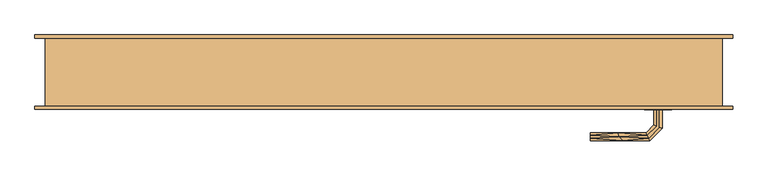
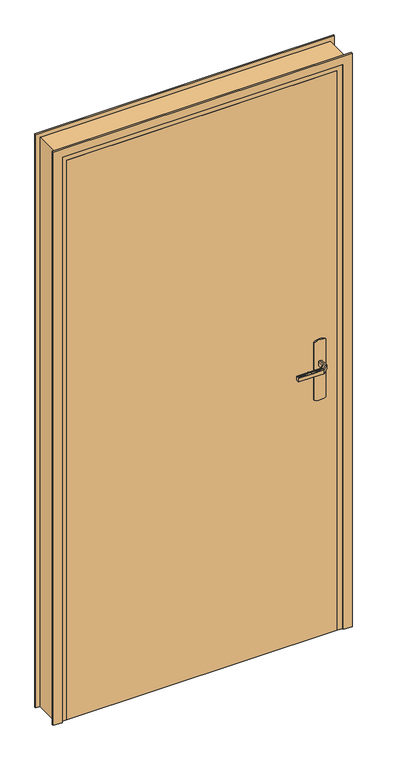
"""IFC4 building model written with IfcOpenShell, lengths in millimetres: door geometry, Portes - Int. Simple - PP (0.89m x 2.04m) (1)."""

from ifc_helpers import new_model, si_unit, point, frame, frame_2d, origin, origin_with_axes, place, context, project, spatial, polyline, circle_curve, trimmed, segment, composite_curve, outline, extrude, faceted_brep, source, transform, mapped, element, save


def door_922e83f1(model_context):
    return source(origin(), model_context, "Body", "SolidModel", [
        extrude(outline(composite_curve([segment(polyline([(1080.0, 955.0), (870.0, 955.0)]), True, "CONTINUOUS"), segment(trimmed(circle_curve(frame_2d((904.6410162, 975.0)), 40.0), [point((870.0, 955.0))], [point((870.0, 995.0))], False, "CARTESIAN"), True, "CONTINUOUS"), segment(polyline([(870.0, 995.0), (1080.0, 995.0)]), True, "CONTINUOUS"), segment(trimmed(circle_curve(frame_2d((1045.3589838, 975.0)), 40.0), [point((1080.0, 995.0))], [point((1080.0, 955.0))], False, "CARTESIAN"), True, "CONTINUOUS")], self_intersect=False)), frame((0.0, 40.0, 0.0), z_axis=(0.0, 1.0, 0.0), x_axis=(0.0, 0.0, 1.0)), (0.0, 0.0, 1.0), 5.0),
        extrude(outline(polyline([(1035.0, 40.0), (1035.0, 0.0), (105.0, 0.0), (105.0, 40.0), (1035.0, 40.0)])), origin_with_axes(), (0.0, 0.0, 1.0), 2040.0),
        extrude(outline(polyline([(0.0, 1055.0), (0.0, 1085.0), (2090.0, 1085.0), (2090.0, 55.0), (0.0, 55.0), (0.0, 85.0), (2060.0, 85.0), (2060.0, 1055.0), (0.0, 1055.0)])), frame((0.0, 100.0, 0.0), z_axis=(0.0, 1.0, 0.0), x_axis=(0.0, 0.0, 1.0)), (0.0, 0.0, 1.0), 5.0),
        extrude(outline(polyline([(0.0, 1055.0), (0.0, 1085.0), (2090.0, 1085.0), (2090.0, 55.0), (0.0, 55.0), (0.0, 85.0), (2060.0, 85.0), (2060.0, 1055.0), (0.0, 1055.0)])), frame((0.0, -5.0, 0.0), z_axis=(0.0, 1.0, 0.0), x_axis=(0.0, 0.0, 1.0)), (0.0, 0.0, 1.0), 5.0),
        faceted_brep([(969.0, -5.0, 1007.0), (972.9747013, -5.0, 1007.7804408), (977.0252987, -5.0, 1007.7804408), (981.0, -5.0, 1007.0), (981.0, -5.0, 993.0), (977.0252987, -5.0, 992.2195592), (972.9747013, -5.0, 992.2195592), (969.0, -5.0, 993.0), (981.0, -32.6509507, 1007.0), (977.0252987, -31.0045755, 1007.7804408), (972.9747013, -29.3267632, 1007.7804408), (959.2986025, -43.002862, 1007.7804408), (960.9764148, -47.0534593, 1007.7804408), (969.0, -27.680388, 1007.0), (969.0, -27.680388, 993.0), (972.9747013, -29.3267632, 992.2195592), (977.0252987, -31.0045755, 992.2195592), (960.9764148, -47.0534593, 992.2195592), (959.2986025, -43.002862, 992.2195592), (981.0, -32.6509507, 993.0), (962.62279, -51.0281607, 1007.0), (957.6522273, -39.0281607, 1007.0), (957.6522273, -39.0281607, 993.0), (962.62279, -51.0281607, 993.0), (874.9813594, -51.0281607, 993.0), (874.9813594, -51.0281607, 1007.0), (874.9813594, -47.0534593, 1007.7804408), (874.9813594, -43.002862, 1007.7804408), (874.9813594, -39.0281607, 1007.0), (874.9813594, -39.0281607, 993.0), (874.9813594, -43.002862, 992.2195592), (874.9813594, -47.0534593, 992.2195592), (922.6923028, -51.0281607, 1007.0), (917.1399809, -45.0281607, 1007.8786868), (916.3167933, -39.0281607, 1007.0), (916.3167933, -39.0281607, 993.0), (917.1399811, -45.0281608, 992.1213132), (922.6923104, -51.0281607, 993.0)], [[[0, 1, 2, 3, 4, 5, 6, 7]], [[8, 3, 2, 9]], [[9, 2, 1, 10, 11, 12]], [[10, 1, 0, 13]], [[7, 14, 13, 0]], [[7, 6, 15, 14]], [[15, 6, 5, 16, 17, 18]], [[5, 4, 19, 16]], [[3, 8, 19, 4]], [[20, 8, 9, 12]], [[11, 10, 13, 21]], [[14, 22, 21, 13]], [[22, 14, 15, 18]], [[17, 16, 19, 23]], [[8, 20, 23, 19]], [[24, 25, 26, 27, 28, 29, 30, 31]], [[32, 33, 26]], [[25, 32, 26]], [[12, 32, 20]], [[33, 11, 34]], [[21, 34, 11]], [[34, 28, 27]], [[26, 33, 27]], [[27, 33, 34]], [[12, 33, 32]], [[12, 11, 33]], [[34, 21, 22, 35, 29, 28]], [[35, 36, 30]], [[37, 31, 36]], [[22, 18, 35]], [[35, 30, 29]], [[24, 31, 37]], [[23, 37, 17]], [[37, 36, 17]], [[17, 36, 18]], [[18, 36, 35]], [[31, 30, 36]], [[37, 23, 20, 32, 25, 24]]]),
        faceted_brep([(969.0, 45.0, 993.0), (972.9747013, 45.0, 992.2195592), (977.0252987, 45.0, 992.2195592), (981.0, 45.0, 993.0), (981.0, 45.0, 1007.0), (977.0252987, 45.0, 1007.7804408), (972.9747013, 45.0, 1007.7804408), (969.0, 45.0, 1007.0), (969.0, 67.4852045, 1007.0), (969.0, 67.4852045, 993.0), (972.9747013, 69.1315797, 1007.7804408), (977.0252987, 70.8093921, 1007.7804408), (960.8389062, 86.9957845, 1007.7804408), (959.1610938, 82.9451872, 1007.7804408), (981.0, 72.4557673, 1007.0), (981.0, 72.4557673, 993.0), (977.0252987, 70.8093921, 992.2195592), (972.9747013, 69.1315797, 992.2195592), (959.1610938, 82.9451872, 992.2195592), (960.8389062, 86.9957845, 992.2195592), (957.5147186, 78.9704859, 1007.0), (957.5147186, 78.9704859, 993.0), (962.4852814, 90.9704859, 1007.0), (962.4852814, 90.9704859, 993.0), (874.9542163, 78.9704859, 1007.0), (874.9542163, 82.9451872, 1007.7804408), (874.9542163, 86.9957845, 1007.7804408), (874.9542163, 90.9704859, 1007.0), (874.9542163, 90.9704859, 993.0), (874.9542163, 86.9957845, 992.2195592), (874.9542163, 82.9451872, 992.2195592), (874.9542163, 78.9704859, 993.0), (916.2344794, 78.9704859, 993.0), (916.2344675, 78.9704859, 1007.0), (917.0576551, 84.9704859, 1007.8786868), (922.5547942, 90.9704859, 1007.0), (922.5547957, 90.9704859, 993.0), (917.0576549, 84.9704858, 992.1213132)], [[[0, 1, 2, 3, 4, 5, 6, 7]], [[7, 8, 9, 0]], [[7, 6, 10, 8]], [[10, 6, 5, 11, 12, 13]], [[5, 4, 14, 11]], [[15, 14, 4, 3]], [[15, 3, 2, 16]], [[16, 2, 1, 17, 18, 19]], [[17, 1, 0, 9]], [[8, 20, 21, 9]], [[20, 8, 10, 13]], [[11, 14, 22, 12]], [[15, 23, 22, 14]], [[23, 15, 16, 19]], [[18, 17, 9, 21]], [[24, 25, 26, 27, 28, 29, 30, 31]], [[32, 21, 20, 33, 24, 31]], [[33, 34, 25]], [[35, 26, 34]], [[20, 13, 33]], [[33, 25, 24]], [[27, 26, 35]], [[22, 35, 12]], [[35, 34, 12]], [[12, 34, 13]], [[13, 34, 33]], [[26, 25, 34]], [[35, 22, 23, 36, 28, 27]], [[36, 37, 29]], [[28, 36, 29]], [[19, 36, 23]], [[37, 18, 32]], [[21, 32, 18]], [[32, 31, 30]], [[29, 37, 30]], [[30, 37, 32]], [[19, 37, 36]], [[19, 18, 37]]]),
        faceted_brep([(1070.0, 100.0, 0.0), (1070.0, 0.0, 0.0), (1035.0, 0.0, 0.0), (1035.0, 40.0, 0.0), (1020.0, 40.0, 0.0), (1020.0, 100.0, 0.0), (1070.0, 100.0, 2075.0), (1070.0, 0.0, 2075.0), (1020.0, 100.0, 2025.0), (120.0, 100.0, 2025.0), (120.0, 100.0, 0.0), (70.0, 100.0, 0.0), (70.0, 100.0, 2075.0), (1020.0, 40.0, 2025.0), (1035.0, 40.0, 2040.0), (105.0, 40.0, 2040.0), (105.0, 40.0, 0.0), (120.0, 40.0, 0.0), (120.0, 40.0, 2025.0), (1035.0, 0.0, 2040.0), (70.0, 0.0, 2075.0), (70.0, 0.0, 0.0), (105.0, 0.0, 0.0), (105.0, 0.0, 2040.0)], [[[0, 1, 2, 3, 4, 5]], [[1, 0, 6, 7]], [[0, 5, 8, 9, 10, 11, 12, 6]], [[5, 4, 13, 8]], [[4, 3, 14, 15, 16, 17, 18, 13]], [[3, 2, 19, 14]], [[2, 1, 7, 20, 21, 22, 23, 19]], [[20, 12, 11, 21]], [[22, 21, 11, 10, 17, 16]], [[9, 18, 17, 10]], [[15, 23, 22, 16]], [[7, 6, 12, 20]], [[8, 13, 18, 9]], [[14, 19, 23, 15]]]),
        extrude(outline(composite_curve([segment(polyline([(870.0, 995.0), (1080.0, 995.0)]), True, "CONTINUOUS"), segment(trimmed(circle_curve(frame_2d((1045.3589838, 975.0)), 40.0), [point((1080.0, 995.0))], [point((1080.0, 955.0))], False, "CARTESIAN"), True, "CONTINUOUS"), segment(polyline([(1080.0, 955.0), (870.0, 955.0)]), True, "CONTINUOUS"), segment(trimmed(circle_curve(frame_2d((904.6410162, 975.0)), 40.0), [point((870.0, 955.0))], [point((870.0, 995.0))], False, "CARTESIAN"), True, "CONTINUOUS")], self_intersect=False)), frame((0.0, -5.0, 0.0), z_axis=(0.0, 1.0, 0.0), x_axis=(0.0, 0.0, 1.0)), (0.0, 0.0, 1.0), 5.0),
    ])


if __name__ == "__main__":
    model = new_model("IFC4")
    model_context = context("Model", 3, world=origin())
    ifc_project = project(units=[si_unit("LENGTHUNIT", "METRE", prefix="MILLI")], contexts=[model_context])
    site = spatial("IfcSite", under=ifc_project)
    building = spatial("IfcBuilding", under=site)
    placement = place(None, origin())
    door_shape = door_922e83f1(model_context)
    element("IfcDoor", 1, ObjectType="Portes - Int. Simple - PP (0.89m x 2.04m) (1)", at=placement, inside=building, context=model_context, shape_type="MappedRepresentation", body=[
        mapped(door_shape, transform((0.0, 0.0, 0.0), x_axis=(1.0, 0.0, 0.0), y_axis=(0.0, 1.0, 0.0), z_axis=(0.0, 0.0, 1.0))),
    ])
    save(model, "model.ifc")
